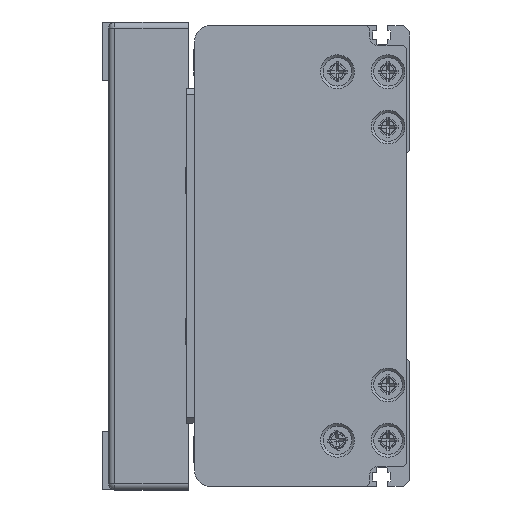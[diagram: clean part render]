
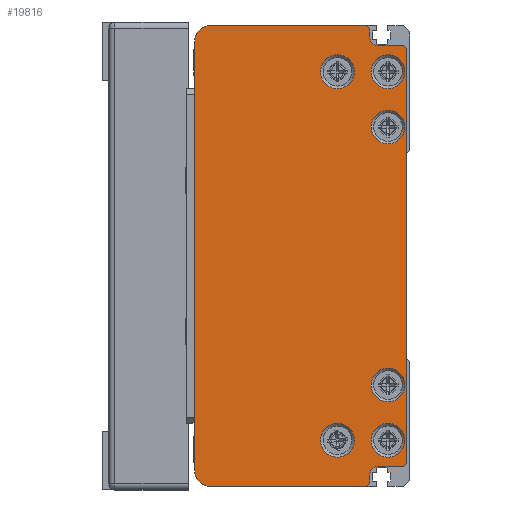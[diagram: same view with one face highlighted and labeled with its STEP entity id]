
A CAD part, left-side view. The second image highlights one B-rep face of the part: STEP entity #19816.
In plain terms, the highlighted planar face has unit normal (-1, 0, 0) as drawn and (0, 0, -1) by its records, which use the part's own axes.
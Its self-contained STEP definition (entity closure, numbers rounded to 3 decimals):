
#934=LINE('',#28642,#2599);
#935=LINE('',#28646,#2600);
#936=LINE('',#28648,#2601);
#937=LINE('',#28650,#2602);
#938=LINE('',#28654,#2603);
#939=LINE('',#28656,#2604);
#940=LINE('',#28658,#2605);
#941=LINE('',#28660,#2606);
#942=LINE('',#28662,#2607);
#943=LINE('',#28666,#2608);
#944=LINE('',#28668,#2609);
#945=LINE('',#28670,#2610);
#2599=VECTOR('',#23255,140.);
#2600=VECTOR('',#23258,51.);
#2601=VECTOR('',#23259,1.414);
#2602=VECTOR('',#23260,2.5);
#2603=VECTOR('',#23263,8.);
#2604=VECTOR('',#23264,1.414);
#2605=VECTOR('',#23265,135.);
#2606=VECTOR('',#23266,1.414);
#2607=VECTOR('',#23267,8.);
#2608=VECTOR('',#23270,2.5);
#2609=VECTOR('',#23271,1.414);
#2610=VECTOR('',#23272,51.);
#4217=PLANE('',#21174);
#4844=FACE_BOUND('',#6672,.T.);
#4845=FACE_BOUND('',#6673,.T.);
#4846=FACE_BOUND('',#6674,.T.);
#4847=FACE_BOUND('',#6675,.T.);
#4848=FACE_BOUND('',#6676,.T.);
#4849=FACE_BOUND('',#6677,.T.);
#5395=FACE_OUTER_BOUND('',#6671,.T.);
#6671=EDGE_LOOP('',(#13911,#13912,#13913,#13914,#13915,#13916,#13917,#13918,
#13919,#13920,#13921,#13922,#13923,#13924,#13925,#13926));
#6672=EDGE_LOOP('',(#13927));
#6673=EDGE_LOOP('',(#13928));
#6674=EDGE_LOOP('',(#13929));
#6675=EDGE_LOOP('',(#13930));
#6676=EDGE_LOOP('',(#13931));
#6677=EDGE_LOOP('',(#13932));
#8177=CIRCLE('',#21175,5.);
#8178=CIRCLE('',#21176,3.);
#8179=CIRCLE('',#21177,3.);
#8180=CIRCLE('',#21178,5.);
#8181=CIRCLE('',#21179,5.5);
#8182=CIRCLE('',#21180,5.5);
#8183=CIRCLE('',#21181,5.5);
#8184=CIRCLE('',#21182,5.5);
#8185=CIRCLE('',#21183,5.5);
#8186=CIRCLE('',#21184,5.5);
#8865=VERTEX_POINT('',#28640);
#8866=VERTEX_POINT('',#28641);
#8867=VERTEX_POINT('',#28643);
#8868=VERTEX_POINT('',#28645);
#8869=VERTEX_POINT('',#28647);
#8870=VERTEX_POINT('',#28649);
#8871=VERTEX_POINT('',#28651);
#8872=VERTEX_POINT('',#28653);
#8873=VERTEX_POINT('',#28655);
#8874=VERTEX_POINT('',#28657);
#8875=VERTEX_POINT('',#28659);
#8876=VERTEX_POINT('',#28661);
#8877=VERTEX_POINT('',#28663);
#8878=VERTEX_POINT('',#28665);
#8879=VERTEX_POINT('',#28667);
#8880=VERTEX_POINT('',#28669);
#8881=VERTEX_POINT('',#28672);
#8882=VERTEX_POINT('',#28674);
#8883=VERTEX_POINT('',#28676);
#8884=VERTEX_POINT('',#28678);
#8885=VERTEX_POINT('',#28680);
#8886=VERTEX_POINT('',#28682);
#10897=EDGE_CURVE('',#8865,#8866,#934,.T.);
#10898=EDGE_CURVE('',#8866,#8867,#8177,.T.);
#10899=EDGE_CURVE('',#8867,#8868,#935,.T.);
#10900=EDGE_CURVE('',#8868,#8869,#936,.T.);
#10901=EDGE_CURVE('',#8869,#8870,#937,.T.);
#10902=EDGE_CURVE('',#8870,#8871,#8178,.T.);
#10903=EDGE_CURVE('',#8871,#8872,#938,.T.);
#10904=EDGE_CURVE('',#8872,#8873,#939,.T.);
#10905=EDGE_CURVE('',#8873,#8874,#940,.T.);
#10906=EDGE_CURVE('',#8874,#8875,#941,.T.);
#10907=EDGE_CURVE('',#8875,#8876,#942,.T.);
#10908=EDGE_CURVE('',#8876,#8877,#8179,.T.);
#10909=EDGE_CURVE('',#8877,#8878,#943,.T.);
#10910=EDGE_CURVE('',#8878,#8879,#944,.T.);
#10911=EDGE_CURVE('',#8879,#8880,#945,.T.);
#10912=EDGE_CURVE('',#8880,#8865,#8180,.T.);
#10913=EDGE_CURVE('',#8881,#8881,#8181,.T.);
#10914=EDGE_CURVE('',#8882,#8882,#8182,.T.);
#10915=EDGE_CURVE('',#8883,#8883,#8183,.T.);
#10916=EDGE_CURVE('',#8884,#8884,#8184,.T.);
#10917=EDGE_CURVE('',#8885,#8885,#8185,.T.);
#10918=EDGE_CURVE('',#8886,#8886,#8186,.T.);
#13911=ORIENTED_EDGE('',*,*,#10897,.T.);
#13912=ORIENTED_EDGE('',*,*,#10898,.T.);
#13913=ORIENTED_EDGE('',*,*,#10899,.T.);
#13914=ORIENTED_EDGE('',*,*,#10900,.T.);
#13915=ORIENTED_EDGE('',*,*,#10901,.T.);
#13916=ORIENTED_EDGE('',*,*,#10902,.T.);
#13917=ORIENTED_EDGE('',*,*,#10903,.T.);
#13918=ORIENTED_EDGE('',*,*,#10904,.T.);
#13919=ORIENTED_EDGE('',*,*,#10905,.T.);
#13920=ORIENTED_EDGE('',*,*,#10906,.T.);
#13921=ORIENTED_EDGE('',*,*,#10907,.T.);
#13922=ORIENTED_EDGE('',*,*,#10908,.T.);
#13923=ORIENTED_EDGE('',*,*,#10909,.T.);
#13924=ORIENTED_EDGE('',*,*,#10910,.T.);
#13925=ORIENTED_EDGE('',*,*,#10911,.T.);
#13926=ORIENTED_EDGE('',*,*,#10912,.T.);
#13927=ORIENTED_EDGE('',*,*,#10913,.T.);
#13928=ORIENTED_EDGE('',*,*,#10914,.T.);
#13929=ORIENTED_EDGE('',*,*,#10915,.T.);
#13930=ORIENTED_EDGE('',*,*,#10916,.T.);
#13931=ORIENTED_EDGE('',*,*,#10917,.T.);
#13932=ORIENTED_EDGE('',*,*,#10918,.T.);
#19816=ADVANCED_FACE('',(#5395,#4844,#4845,#4846,#4847,#4848,#4849),#4217,
 .F.);
#21174=AXIS2_PLACEMENT_3D('',#28639,#23253,#23254);
#21175=AXIS2_PLACEMENT_3D('',#28644,#23256,#23257);
#21176=AXIS2_PLACEMENT_3D('',#28652,#23261,#23262);
#21177=AXIS2_PLACEMENT_3D('',#28664,#23268,#23269);
#21178=AXIS2_PLACEMENT_3D('',#28671,#23273,#23274);
#21179=AXIS2_PLACEMENT_3D('',#28673,#23275,#23276);
#21180=AXIS2_PLACEMENT_3D('',#28675,#23277,#23278);
#21181=AXIS2_PLACEMENT_3D('',#28677,#23279,#23280);
#21182=AXIS2_PLACEMENT_3D('',#28679,#23281,#23282);
#21183=AXIS2_PLACEMENT_3D('',#28681,#23283,#23284);
#21184=AXIS2_PLACEMENT_3D('',#28683,#23285,#23286);
#23253=DIRECTION('center_axis',(0.,0.,
1.));
#23254=DIRECTION('ref_axis',(1.,0.,0.));
#23255=DIRECTION('',(1.,0.,0.));
#23256=DIRECTION('center_axis',(0.,0.,
-1.));
#23257=DIRECTION('ref_axis',(-1.,0.,0.));
#23258=DIRECTION('',(0.,-1.,0.));
#23259=DIRECTION('',(-0.707,-0.707,0.));
#23260=DIRECTION('',(-1.,0.,0.));
#23261=DIRECTION('center_axis',(0.,0.,
1.));
#23262=DIRECTION('ref_axis',(0.,1.,0.));
#23263=DIRECTION('',(0.,-1.,0.));
#23264=DIRECTION('',(-0.707,-0.707,0.));
#23265=DIRECTION('',(-1.,0.,0.));
#23266=DIRECTION('',(-0.707,0.707,0.));
#23267=DIRECTION('',(0.,1.,0.));
#23268=DIRECTION('center_axis',(0.,0.,
1.));
#23269=DIRECTION('ref_axis',(1.,0.,0.));
#23270=DIRECTION('',(-1.,0.,0.));
#23271=DIRECTION('',(-0.707,0.707,0.));
#23272=DIRECTION('',(0.,1.,0.));
#23273=DIRECTION('center_axis',(0.,0.,
-1.));
#23274=DIRECTION('ref_axis',(0.,-1.,0.));
#23275=DIRECTION('center_axis',(0.,0.,
1.));
#23276=DIRECTION('ref_axis',(-1.,0.,0.));
#23277=DIRECTION('center_axis',(0.,0.,
1.));
#23278=DIRECTION('ref_axis',(-1.,0.,0.));
#23279=DIRECTION('center_axis',(0.,0.,
1.));
#23280=DIRECTION('ref_axis',(-1.,0.,0.));
#23281=DIRECTION('center_axis',(0.,0.,
1.));
#23282=DIRECTION('ref_axis',(-1.,0.,0.));
#23283=DIRECTION('center_axis',(0.,0.,
1.));
#23284=DIRECTION('ref_axis',(-1.,0.,0.));
#23285=DIRECTION('center_axis',(0.,0.,
1.));
#23286=DIRECTION('ref_axis',(-1.,0.,0.));
#28639=CARTESIAN_POINT('Origin',(0.25,38.047,-969.));
#28640=CARTESIAN_POINT('',(-69.75,72.25,-969.));
#28641=CARTESIAN_POINT('',(70.25,72.25,-969.));
#28642=CARTESIAN_POINT('',(-69.75,72.25,-969.));
#28643=CARTESIAN_POINT('',(75.25,67.25,-969.));
#28644=CARTESIAN_POINT('Origin',(70.25,67.25,-969.));
#28645=CARTESIAN_POINT('',(75.25,16.25,-969.));
#28646=CARTESIAN_POINT('',(75.25,67.25,-969.));
#28647=CARTESIAN_POINT('',(74.25,15.25,-969.));
#28648=CARTESIAN_POINT('',(75.25,16.25,-969.));
#28649=CARTESIAN_POINT('',(71.75,15.25,-969.));
#28650=CARTESIAN_POINT('',(74.25,15.25,-969.));
#28651=CARTESIAN_POINT('',(68.75,12.25,-969.));
#28652=CARTESIAN_POINT('Origin',(71.75,12.25,-969.));
#28653=CARTESIAN_POINT('',(68.75,4.25,-969.));
#28654=CARTESIAN_POINT('',(68.75,12.25,-969.));
#28655=CARTESIAN_POINT('',(67.75,3.25,-969.));
#28656=CARTESIAN_POINT('',(68.75,4.25,-969.));
#28657=CARTESIAN_POINT('',(-67.25,3.25,-969.));
#28658=CARTESIAN_POINT('',(67.75,3.25,-969.));
#28659=CARTESIAN_POINT('',(-68.25,4.25,-969.));
#28660=CARTESIAN_POINT('',(-67.25,3.25,-969.));
#28661=CARTESIAN_POINT('',(-68.25,12.25,-969.));
#28662=CARTESIAN_POINT('',(-68.25,4.25,-969.));
#28663=CARTESIAN_POINT('',(-71.25,15.25,-969.));
#28664=CARTESIAN_POINT('Origin',(-71.25,12.25,-969.));
#28665=CARTESIAN_POINT('',(-73.75,15.25,-969.));
#28666=CARTESIAN_POINT('',(-71.25,15.25,-969.));
#28667=CARTESIAN_POINT('',(-74.75,16.25,-969.));
#28668=CARTESIAN_POINT('',(-73.75,15.25,-969.));
#28669=CARTESIAN_POINT('',(-74.75,67.25,-969.));
#28670=CARTESIAN_POINT('',(-74.75,16.25,-969.));
#28671=CARTESIAN_POINT('Origin',(-69.75,67.25,-969.));
#28672=CARTESIAN_POINT('',(-47.25,9.25,-969.));
#28673=CARTESIAN_POINT('Origin',(-41.75,9.25,-969.));
#28674=CARTESIAN_POINT('',(36.75,9.25,-969.));
#28675=CARTESIAN_POINT('Origin',(42.25,9.25,-969.));
#28676=CARTESIAN_POINT('',(-65.25,25.75,-969.));
#28677=CARTESIAN_POINT('Origin',(-59.75,25.75,-969.));
#28678=CARTESIAN_POINT('',(54.75,25.75,-969.));
#28679=CARTESIAN_POINT('Origin',(60.25,25.75,-969.));
#28680=CARTESIAN_POINT('',(-65.25,9.25,-969.));
#28681=CARTESIAN_POINT('Origin',(-59.75,9.25,-969.));
#28682=CARTESIAN_POINT('',(54.75,9.25,-969.));
#28683=CARTESIAN_POINT('Origin',(60.25,9.25,-969.));
